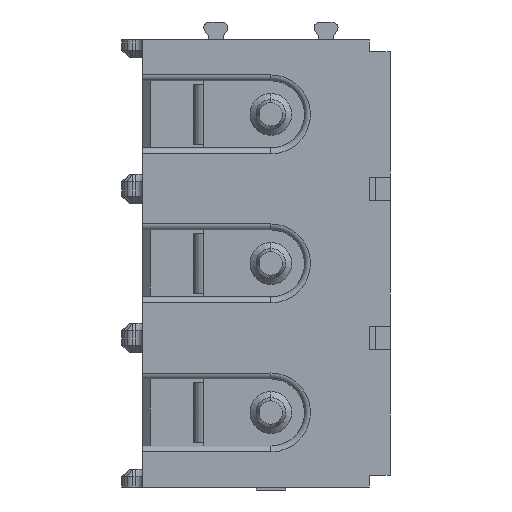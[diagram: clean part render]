
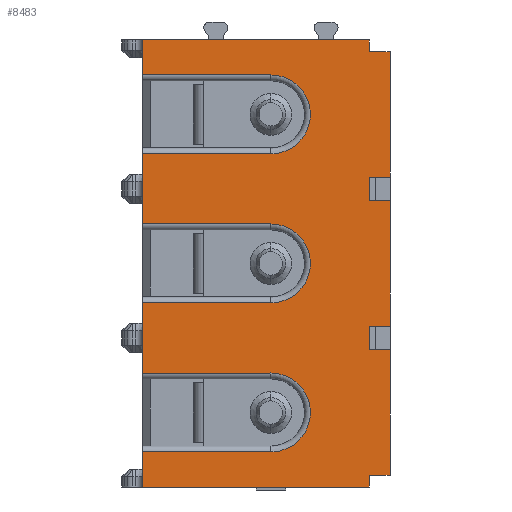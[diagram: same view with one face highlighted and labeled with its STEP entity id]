
A CAD part, front view. The second image highlights one B-rep face of the part: STEP entity #8483.
In plain terms, the highlighted planar face has unit normal (0, -1, 0).
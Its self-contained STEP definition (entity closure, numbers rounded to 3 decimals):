
#53=DIRECTION('',(0.,0.,1.));
#54=VECTOR('',#53,2.35);
#55=CARTESIAN_POINT('',(0.7,3.5,-10.575));
#56=LINE('',#55,#54);
#57=CARTESIAN_POINT('',(5.,3.5,-6.9));
#58=DIRECTION('',(0.,-1.,0.));
#59=DIRECTION('',(0.,0.,-1.));
#60=AXIS2_PLACEMENT_3D('',#57,#58,#59);
#62=CARTESIAN_POINT('',(5.,3.5,-6.9));
#63=DIRECTION('',(0.,-1.,0.));
#64=DIRECTION('',(0.051,0.,-0.999));
#65=AXIS2_PLACEMENT_3D('',#62,#63,#64);
#67=DIRECTION('',(1.,0.,0.));
#68=VECTOR('',#67,0.7);
#69=CARTESIAN_POINT('',(8.3,3.5,-4.8));
#70=LINE('',#69,#68);
#71=DIRECTION('',(0.,0.,-1.));
#72=VECTOR('',#71,4.2);
#73=CARTESIAN_POINT('',(9.,3.5,-4.8));
#74=LINE('',#73,#72);
#75=DIRECTION('',(0.,0.,-1.));
#76=VECTOR('',#75,0.8);
#77=CARTESIAN_POINT('',(8.3,3.5,-9.));
#78=LINE('',#77,#76);
#79=DIRECTION('',(1.,0.,0.));
#80=VECTOR('',#79,0.7);
#81=CARTESIAN_POINT('',(8.3,3.5,-9.8));
#82=LINE('',#81,#80);
#83=DIRECTION('',(0.,0.,-1.));
#84=VECTOR('',#83,4.2);
#85=CARTESIAN_POINT('',(9.,3.5,-9.8));
#86=LINE('',#85,#84);
#87=DIRECTION('',(0.,0.,-1.));
#88=VECTOR('',#87,0.8);
#89=CARTESIAN_POINT('',(8.3,3.5,-14.));
#90=LINE('',#89,#88);
#91=DIRECTION('',(0.,0.,-1.));
#92=VECTOR('',#91,4.2);
#93=CARTESIAN_POINT('',(9.,3.5,-14.8));
#94=LINE('',#93,#92);
#95=DIRECTION('',(0.,0.,-1.));
#96=VECTOR('',#95,0.4);
#97=CARTESIAN_POINT('',(8.3,3.5,-19.));
#98=LINE('',#97,#96);
#99=DIRECTION('',(-1.,0.,0.));
#100=VECTOR('',#99,7.6);
#101=CARTESIAN_POINT('',(8.3,3.5,-19.4));
#102=LINE('',#101,#100);
#103=CARTESIAN_POINT('',(5.,3.5,-16.9));
#104=DIRECTION('',(0.,-1.,0.));
#105=DIRECTION('',(0.,0.,-1.));
#106=AXIS2_PLACEMENT_3D('',#103,#104,#105);
#108=CARTESIAN_POINT('',(5.,3.5,-16.9));
#109=DIRECTION('',(0.,-1.,0.));
#110=DIRECTION('',(0.051,0.,-0.999));
#111=AXIS2_PLACEMENT_3D('',#108,#109,#110);
#113=CARTESIAN_POINT('',(5.,3.5,-11.9));
#114=DIRECTION('',(0.,-1.,0.));
#115=DIRECTION('',(0.,0.,-1.));
#116=AXIS2_PLACEMENT_3D('',#113,#114,#115);
#118=CARTESIAN_POINT('',(5.,3.5,-11.9));
#119=DIRECTION('',(0.,-1.,0.));
#120=DIRECTION('',(0.051,0.,-0.999));
#121=AXIS2_PLACEMENT_3D('',#118,#119,#120);
#519=DIRECTION('',(0.,0.,1.));
#520=VECTOR('',#519,0.4);
#521=CARTESIAN_POINT('',(8.3,3.5,-4.8));
#522=LINE('',#521,#520);
#548=DIRECTION('',(-1.,0.,0.));
#549=VECTOR('',#548,7.6);
#550=CARTESIAN_POINT('',(8.3,3.5,-4.4));
#551=LINE('',#550,#549);
#811=DIRECTION('',(0.,0.,-1.));
#812=VECTOR('',#811,1.175);
#813=CARTESIAN_POINT('',(0.7,3.5,-4.4));
#814=LINE('',#813,#812);
#815=DIRECTION('',(1.,0.,0.));
#816=VECTOR('',#815,4.3);
#817=CARTESIAN_POINT('',(0.7,3.5,-5.575));
#818=LINE('',#817,#816);
#847=DIRECTION('',(-1.,0.,0.));
#848=VECTOR('',#847,4.3);
#849=CARTESIAN_POINT('',(5.,3.5,-8.225));
#850=LINE('',#849,#848);
#1440=DIRECTION('',(0.,0.,-1.));
#1441=VECTOR('',#1440,1.175);
#1442=CARTESIAN_POINT('',(0.7,3.5,-18.225));
#1443=LINE('',#1442,#1441);
#1452=DIRECTION('',(-1.,0.,0.));
#1453=VECTOR('',#1452,4.3);
#1454=CARTESIAN_POINT('',(5.,3.5,-18.225));
#1455=LINE('',#1454,#1453);
#1484=DIRECTION('',(1.,0.,0.));
#1485=VECTOR('',#1484,4.3);
#1486=CARTESIAN_POINT('',(0.7,3.5,-15.575));
#1487=LINE('',#1486,#1485);
#1497=DIRECTION('',(0.,0.,-1.));
#1498=VECTOR('',#1497,2.35);
#1499=CARTESIAN_POINT('',(0.7,3.5,-13.225));
#1500=LINE('',#1499,#1498);
#1971=DIRECTION('',(1.,0.,0.));
#1972=VECTOR('',#1971,4.3);
#1973=CARTESIAN_POINT('',(0.7,3.5,-10.575));
#1974=LINE('',#1973,#1972);
#2003=DIRECTION('',(-1.,0.,0.));
#2004=VECTOR('',#2003,4.3);
#2005=CARTESIAN_POINT('',(5.,3.5,-13.225));
#2006=LINE('',#2005,#2004);
#2409=DIRECTION('',(1.,0.,0.));
#2410=VECTOR('',#2409,0.7);
#2411=CARTESIAN_POINT('',(8.3,3.5,-19.));
#2412=LINE('',#2411,#2410);
#6553=DIRECTION('',(1.,0.,0.));
#6554=VECTOR('',#6553,0.7);
#6555=CARTESIAN_POINT('',(8.3,3.5,-9.));
#6556=LINE('',#6555,#6554);
#6569=DIRECTION('',(1.,0.,0.));
#6570=VECTOR('',#6569,0.7);
#6571=CARTESIAN_POINT('',(8.3,3.5,-14.));
#6572=LINE('',#6571,#6570);
#6605=DIRECTION('',(-1.,0.,0.));
#6606=VECTOR('',#6605,0.7);
#6607=CARTESIAN_POINT('',(9.,3.5,-14.8));
#6608=LINE('',#6607,#6606);
#6625=CARTESIAN_POINT('',(9.,3.5,-9.));
#6626=VERTEX_POINT('',#6625);
#6627=CARTESIAN_POINT('',(9.,3.5,-4.8));
#6628=VERTEX_POINT('',#6627);
#6649=CARTESIAN_POINT('',(9.,3.5,-19.));
#6650=VERTEX_POINT('',#6649);
#6651=CARTESIAN_POINT('',(9.,3.5,-14.8));
#6652=VERTEX_POINT('',#6651);
#6657=CARTESIAN_POINT('',(9.,3.5,-14.));
#6658=VERTEX_POINT('',#6657);
#6659=CARTESIAN_POINT('',(9.,3.5,-9.8));
#6660=VERTEX_POINT('',#6659);
#6661=CARTESIAN_POINT('',(8.3,3.5,-9.));
#6662=CARTESIAN_POINT('',(8.3,3.5,-9.8));
#6663=VERTEX_POINT('',#6661);
#6664=VERTEX_POINT('',#6662);
#6665=CARTESIAN_POINT('',(0.7,3.5,-10.575));
#6666=CARTESIAN_POINT('',(0.7,3.5,-8.225));
#6667=VERTEX_POINT('',#6665);
#6668=VERTEX_POINT('',#6666);
#6669=CARTESIAN_POINT('',(5.,3.5,-8.225));
#6670=VERTEX_POINT('',#6669);
#6671=CARTESIAN_POINT('',(5.068,3.5,-8.223));
#6672=VERTEX_POINT('',#6671);
#6673=CARTESIAN_POINT('',(5.,3.5,-5.575));
#6674=VERTEX_POINT('',#6673);
#6675=CARTESIAN_POINT('',(0.7,3.5,-5.575));
#6676=VERTEX_POINT('',#6675);
#6677=CARTESIAN_POINT('',(0.7,3.5,-4.4));
#6678=VERTEX_POINT('',#6677);
#6679=CARTESIAN_POINT('',(8.3,3.5,-4.4));
#6680=VERTEX_POINT('',#6679);
#6681=CARTESIAN_POINT('',(8.3,3.5,-4.8));
#6682=VERTEX_POINT('',#6681);
#6683=CARTESIAN_POINT('',(8.3,3.5,-14.));
#6684=VERTEX_POINT('',#6683);
#6685=CARTESIAN_POINT('',(8.3,3.5,-14.8));
#6686=VERTEX_POINT('',#6685);
#6687=CARTESIAN_POINT('',(8.3,3.5,-19.));
#6688=VERTEX_POINT('',#6687);
#6689=CARTESIAN_POINT('',(8.3,3.5,-19.4));
#6690=VERTEX_POINT('',#6689);
#6691=CARTESIAN_POINT('',(0.7,3.5,-19.4));
#6692=VERTEX_POINT('',#6691);
#6693=CARTESIAN_POINT('',(0.7,3.5,-18.225));
#6694=VERTEX_POINT('',#6693);
#6695=CARTESIAN_POINT('',(5.,3.5,-18.225));
#6696=VERTEX_POINT('',#6695);
#6697=CARTESIAN_POINT('',(5.068,3.5,-18.223));
#6698=VERTEX_POINT('',#6697);
#6699=CARTESIAN_POINT('',(5.,3.5,-15.575));
#6700=VERTEX_POINT('',#6699);
#6701=CARTESIAN_POINT('',(0.7,3.5,-15.575));
#6702=VERTEX_POINT('',#6701);
#6703=CARTESIAN_POINT('',(0.7,3.5,-13.225));
#6704=VERTEX_POINT('',#6703);
#6705=CARTESIAN_POINT('',(5.,3.5,-13.225));
#6706=VERTEX_POINT('',#6705);
#6707=CARTESIAN_POINT('',(5.068,3.5,-13.223));
#6708=VERTEX_POINT('',#6707);
#6709=CARTESIAN_POINT('',(5.,3.5,-10.575));
#6710=VERTEX_POINT('',#6709);
#8419=CARTESIAN_POINT('',(4.85,3.5,-1.9));
#8420=DIRECTION('',(0.,1.,0.));
#8421=DIRECTION('',(1.,0.,0.));
#8422=AXIS2_PLACEMENT_3D('',#8419,#8420,#8421);
#8423=PLANE('',#8422);
#8425=ORIENTED_EDGE('',*,*,#8424,.T.);
#8427=ORIENTED_EDGE('',*,*,#8426,.F.);
#8429=ORIENTED_EDGE('',*,*,#8428,.T.);
#8431=ORIENTED_EDGE('',*,*,#8430,.T.);
#8433=ORIENTED_EDGE('',*,*,#8432,.F.);
#8435=ORIENTED_EDGE('',*,*,#8434,.F.);
#8437=ORIENTED_EDGE('',*,*,#8436,.F.);
#8439=ORIENTED_EDGE('',*,*,#8438,.F.);
#8441=ORIENTED_EDGE('',*,*,#8440,.T.);
#8442=ORIENTED_EDGE('',*,*,#8238,.T.);
#8444=ORIENTED_EDGE('',*,*,#8443,.F.);
#8445=ORIENTED_EDGE('',*,*,#8412,.T.);
#8446=ORIENTED_EDGE('',*,*,#8369,.T.);
#8447=ORIENTED_EDGE('',*,*,#8270,.T.);
#8449=ORIENTED_EDGE('',*,*,#8448,.F.);
#8451=ORIENTED_EDGE('',*,*,#8450,.T.);
#8453=ORIENTED_EDGE('',*,*,#8452,.F.);
#8454=ORIENTED_EDGE('',*,*,#8262,.T.);
#8456=ORIENTED_EDGE('',*,*,#8455,.F.);
#8458=ORIENTED_EDGE('',*,*,#8457,.T.);
#8460=ORIENTED_EDGE('',*,*,#8459,.T.);
#8462=ORIENTED_EDGE('',*,*,#8461,.F.);
#8464=ORIENTED_EDGE('',*,*,#8463,.F.);
#8466=ORIENTED_EDGE('',*,*,#8465,.T.);
#8468=ORIENTED_EDGE('',*,*,#8467,.T.);
#8470=ORIENTED_EDGE('',*,*,#8469,.F.);
#8472=ORIENTED_EDGE('',*,*,#8471,.F.);
#8474=ORIENTED_EDGE('',*,*,#8473,.F.);
#8476=ORIENTED_EDGE('',*,*,#8475,.T.);
#8478=ORIENTED_EDGE('',*,*,#8477,.T.);
#8480=ORIENTED_EDGE('',*,*,#8479,.F.);
#8481=EDGE_LOOP('',(#8425,#8427,#8429,#8431,#8433,#8435,#8437,#8439,#8441,#8442,
#8444,#8445,#8446,#8447,#8449,#8451,#8453,#8454,#8456,#8458,#8460,#8462,#8464,
#8466,#8468,#8470,#8472,#8474,#8476,#8478,#8480));
#8482=FACE_OUTER_BOUND('',#8481,.F.);
#8483=ADVANCED_FACE('',(#8482),#8423,.F.);
#61=CIRCLE('',#60,1.325);
#66=CIRCLE('',#65,1.325);
#107=CIRCLE('',#106,1.325);
#112=CIRCLE('',#111,1.325);
#117=CIRCLE('',#116,1.325);
#122=CIRCLE('',#121,1.325);
#8238=EDGE_CURVE('',#6628,#6626,#74,.T.);
#8262=EDGE_CURVE('',#6652,#6650,#94,.T.);
#8270=EDGE_CURVE('',#6660,#6658,#86,.T.);
#8369=EDGE_CURVE('',#6664,#6660,#82,.T.);
#8412=EDGE_CURVE('',#6663,#6664,#78,.T.);
#8424=EDGE_CURVE('',#6667,#6668,#56,.T.);
#8426=EDGE_CURVE('',#6670,#6668,#850,.T.);
#8428=EDGE_CURVE('',#6670,#6672,#61,.T.);
#8430=EDGE_CURVE('',#6672,#6674,#66,.T.);
#8432=EDGE_CURVE('',#6676,#6674,#818,.T.);
#8434=EDGE_CURVE('',#6678,#6676,#814,.T.);
#8436=EDGE_CURVE('',#6680,#6678,#551,.T.);
#8438=EDGE_CURVE('',#6682,#6680,#522,.T.);
#8440=EDGE_CURVE('',#6682,#6628,#70,.T.);
#8443=EDGE_CURVE('',#6663,#6626,#6556,.T.);
#8448=EDGE_CURVE('',#6684,#6658,#6572,.T.);
#8450=EDGE_CURVE('',#6684,#6686,#90,.T.);
#8452=EDGE_CURVE('',#6652,#6686,#6608,.T.);
#8455=EDGE_CURVE('',#6688,#6650,#2412,.T.);
#8457=EDGE_CURVE('',#6688,#6690,#98,.T.);
#8459=EDGE_CURVE('',#6690,#6692,#102,.T.);
#8461=EDGE_CURVE('',#6694,#6692,#1443,.T.);
#8463=EDGE_CURVE('',#6696,#6694,#1455,.T.);
#8465=EDGE_CURVE('',#6696,#6698,#107,.T.);
#8467=EDGE_CURVE('',#6698,#6700,#112,.T.);
#8469=EDGE_CURVE('',#6702,#6700,#1487,.T.);
#8471=EDGE_CURVE('',#6704,#6702,#1500,.T.);
#8473=EDGE_CURVE('',#6706,#6704,#2006,.T.);
#8475=EDGE_CURVE('',#6706,#6708,#117,.T.);
#8477=EDGE_CURVE('',#6708,#6710,#122,.T.);
#8479=EDGE_CURVE('',#6667,#6710,#1974,.T.);
